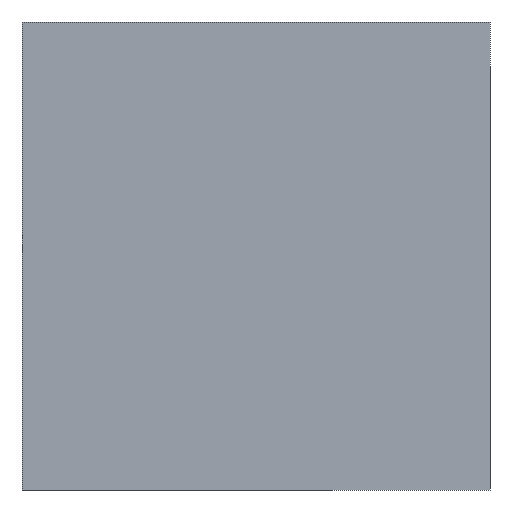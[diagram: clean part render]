
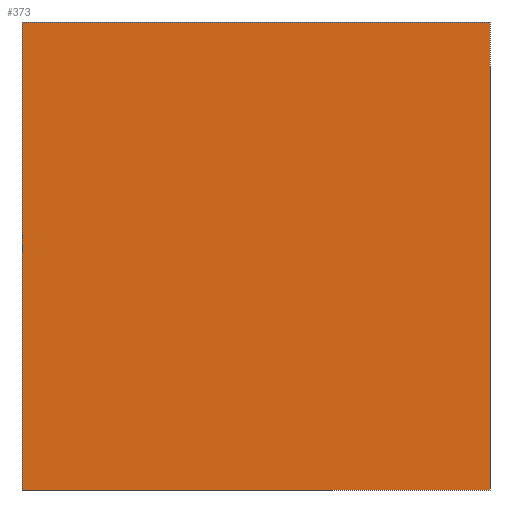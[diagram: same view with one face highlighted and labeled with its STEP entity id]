
A CAD part, left-side view. The second image highlights one B-rep face of the part: STEP entity #373.
In plain terms, the highlighted planar face has unit normal (-1, 0, 0).
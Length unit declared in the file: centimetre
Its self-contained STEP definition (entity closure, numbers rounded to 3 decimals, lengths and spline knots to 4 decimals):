
#19 = EDGE_CURVE ( 'NONE', #566, #487, #147, .T. ) ;
#55 = LINE ( 'NONE', #274, #337 ) ;
#92 = AXIS2_PLACEMENT_3D ( 'NONE', #172, #250, #169 ) ;
#102 = CARTESIAN_POINT ( 'NONE',  ( 0., 0., 0. ) ) ;
#120 = CARTESIAN_POINT ( 'NONE',  ( 0., 1000., 0. ) ) ;
#136 = ORIENTED_EDGE ( 'NONE', *, *, #260, .T. ) ;
#141 = VERTEX_POINT ( 'NONE', #512 ) ;
#147 = LINE ( 'NONE', #321, #359 ) ;
#169 = DIRECTION ( 'NONE',  ( 0., 0., -1. ) ) ;
#172 = CARTESIAN_POINT ( 'NONE',  ( 0., 1000., 1000. ) ) ;
#250 = DIRECTION ( 'NONE',  ( 1., 0., 0. ) ) ;
#252 = LINE ( 'NONE', #429, #434 ) ;
#260 = EDGE_CURVE ( 'NONE', #487, #278, #55, .T. ) ;
#261 = ORIENTED_EDGE ( 'NONE', *, *, #489, .F. ) ;
#274 = CARTESIAN_POINT ( 'NONE',  ( 0., 1000., 0. ) ) ;
#278 = VERTEX_POINT ( 'NONE', #102 ) ;
#321 = CARTESIAN_POINT ( 'NONE',  ( 0., 1000., 1000. ) ) ;
#326 = EDGE_CURVE ( 'NONE', #566, #141, #345, .T. ) ;
#337 = VECTOR ( 'NONE', #459, 100. ) ;
#338 = VECTOR ( 'NONE', #391, 100. ) ;
#344 = ORIENTED_EDGE ( 'NONE', *, *, #19, .T. ) ;
#345 = LINE ( 'NONE', #477, #338 ) ;
#359 = VECTOR ( 'NONE', #508, 100. ) ;
#373 = ADVANCED_FACE ( 'NONE', ( #567 ), #397, .F. ) ;
#388 = CARTESIAN_POINT ( 'NONE',  ( 0., 1000., 1000. ) ) ;
#391 = DIRECTION ( 'NONE',  ( 0., -1., 0. ) ) ;
#397 = PLANE ( 'NONE',  #92 ) ;
#429 = CARTESIAN_POINT ( 'NONE',  ( 0., 0., 1000. ) ) ;
#434 = VECTOR ( 'NONE', #436, 100. ) ;
#436 = DIRECTION ( 'NONE',  ( 0., 0., -1. ) ) ;
#456 = EDGE_LOOP ( 'NONE', ( #136, #261, #524, #344 ) ) ;
#459 = DIRECTION ( 'NONE',  ( 0., -1., 0. ) ) ;
#477 = CARTESIAN_POINT ( 'NONE',  ( 0., 1000., 1000. ) ) ;
#487 = VERTEX_POINT ( 'NONE', #120 ) ;
#489 = EDGE_CURVE ( 'NONE', #141, #278, #252, .T. ) ;
#508 = DIRECTION ( 'NONE',  ( 0., 0., -1. ) ) ;
#512 = CARTESIAN_POINT ( 'NONE',  ( 0., 0., 1000. ) ) ;
#524 = ORIENTED_EDGE ( 'NONE', *, *, #326, .F. ) ;
#566 = VERTEX_POINT ( 'NONE', #388 ) ;
#567 = FACE_OUTER_BOUND ( 'NONE', #456, .T. ) ;
